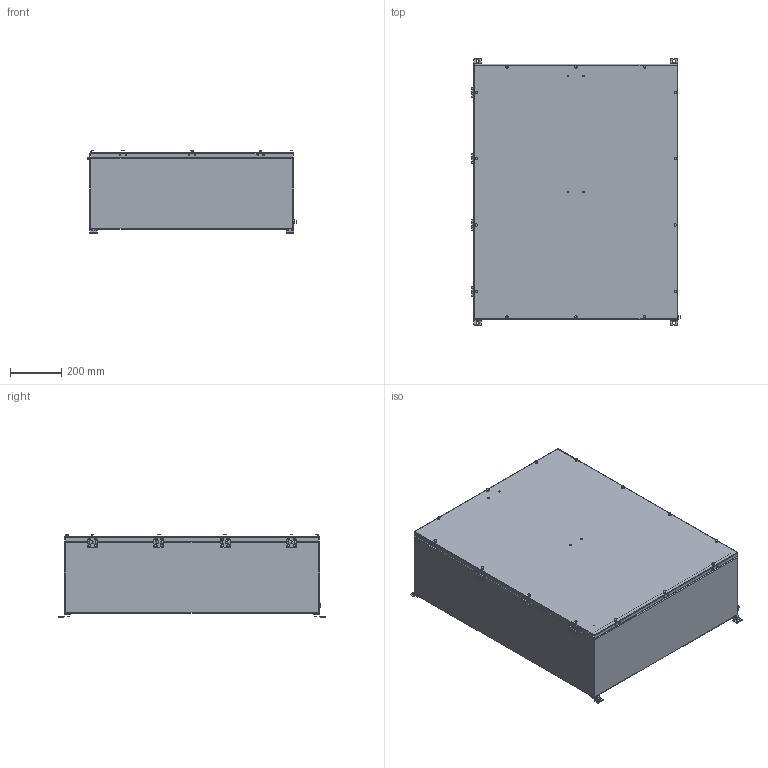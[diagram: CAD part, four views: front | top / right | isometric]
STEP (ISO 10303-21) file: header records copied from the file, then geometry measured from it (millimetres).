
FILE_DESCRIPTION((''),'2;1');
FILE_NAME('\\192.168.5.25\cortem_klient\INVENTOR БАЗА МОДЕЛЕЙ\Актуальная база моделей для отдела продаж\КСРВ-М\КСРВ-М1008030_М3.stp','2019-04-09T14:48:30',('A.S.Kozlov'),(''),'Autodesk Inventor 2012','Autodesk Inventor 2012','');
FILE_SCHEMA(('CONFIG_CONTROL_DESIGN'));
Length unit declared in the file: millimetre
Products named in the file (1): КСРВ-(параметрическая модель)_Внешний контур_1
Bounding box: 819.19 x 1044 x 321.7 mm (x, y, z)
Surface area: 3511981.5 mm2 (no closed solid volume)
Topology: 0 solids, 61 shells, 131 faces, 753 edges, 671 vertices
Faces by surface type: plane 77, cylinder 51, sphere 3
Full cylindrical faces by diameter (mm): 10 x2
Entity records: 8052 total; most frequent: CARTESIAN_POINT 1561, DIRECTION 1343, ORIENTED_EDGE 856, EDGE_CURVE 748, VERTEX_POINT 669, AXIS2_PLACEMENT_3D 469, VECTOR 405, LINE 405
